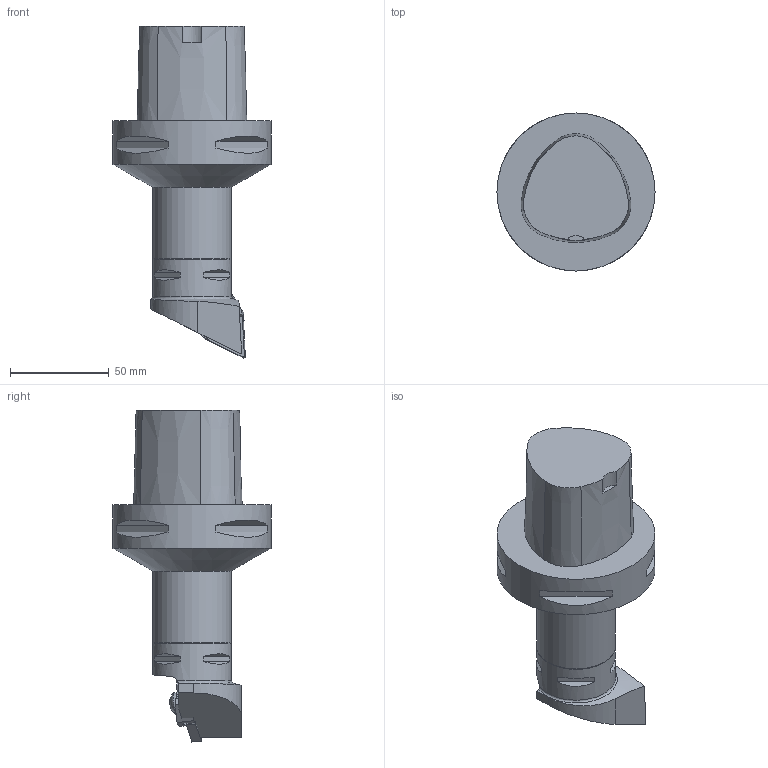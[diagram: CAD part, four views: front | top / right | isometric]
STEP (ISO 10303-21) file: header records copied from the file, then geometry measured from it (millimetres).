
FILE_DESCRIPTION(('STEP'), '1');
FILE_NAME('null', '2018-05-22T16:16:52', (''), (''), 'Express v2.1.0.0', 'Express Tool', 'Unknown');
FILE_SCHEMA(('AP242_MANAGED_MODEL_BASED_3D_ENGINEERING_MIM'));
Length unit declared in the file: millimetre
Products named in the file (4): null; edec572a-08e8-41df-92f1-d55ef158b810; C4_MTJNL_27050_22_SIM; C8_391.02_40070A_634855030788735978_1_stp
Assembly tree (3 placements, depth 3):
  null
    edec572a-08e8-41df-92f1-d55ef158b810
      C4_MTJNL_27050_22_SIM
    C8_391.02_40070A_634855030788735978_1_stp
Bounding box: 80 x 80 x 168 mm (x, y, z)
Volume: 357691.1 mm3; surface area: 42471.2 mm2
Topology: 6 solids, 6 shells, 168 faces, 392 edges, 247 vertices
Faces by surface type: plane 100, cylinder 32, cone 31, torus 4, sphere 1
Full cylindrical faces by diameter (mm): 4.5 x1, 4.963 x1, 5.95 x2, 6 x1, 7.1 x1, 10.9 x1, 11.9 x1, 40 x2, 80 x1
Entity records: 5044 total; most frequent: CARTESIAN_POINT 1034, DIRECTION 820, ORIENTED_EDGE 718, EDGE_CURVE 359, AXIS2_PLACEMENT_3D 318, VERTEX_POINT 238, EDGE_LOOP 205, LINE 184
